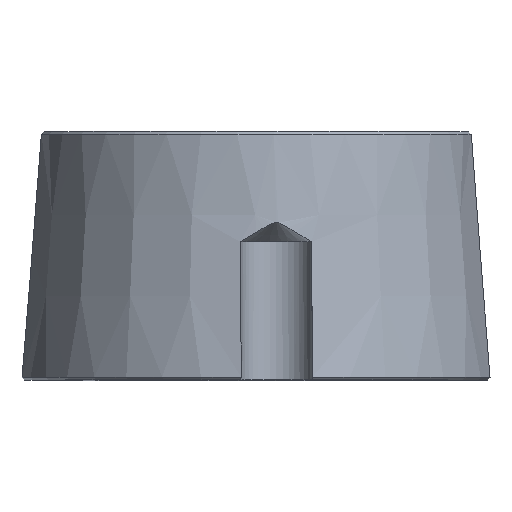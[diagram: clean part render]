
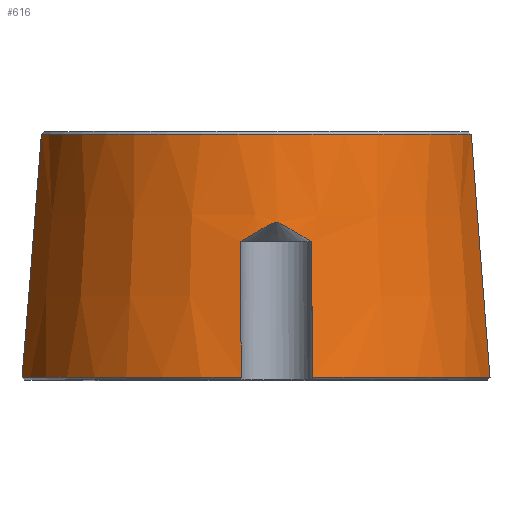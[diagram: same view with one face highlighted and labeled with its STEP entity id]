
A CAD part, top view. The second image highlights one B-rep face of the part: STEP entity #616.
In plain terms, the highlighted conical face has half-angle 4.587 degrees and reference radius 41.02 mm.
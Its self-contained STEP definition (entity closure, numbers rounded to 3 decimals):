
#29=B_SPLINE_CURVE_WITH_KNOTS('',3,(#1003,#1004,#1005,#1006,#1007,#1008,
#1009,#1010,#1011,#1012),.UNSPECIFIED.,.F.,.F.,(4,2,2,2,4),(1.002,
1.477,2.953,4.535,5.112),
 .UNSPECIFIED.);
#40=B_SPLINE_CURVE_WITH_KNOTS('',3,(#1132,#1133,#1134,#1135,#1136,#1137,
#1138,#1139),.UNSPECIFIED.,.F.,.F.,(4,2,2,4),(0.981,1.531,
3.824,5.1),.UNSPECIFIED.);
#42=B_SPLINE_CURVE_WITH_KNOTS('',3,(#1158,#1159,#1160,#1161,#1162,#1163),
 .UNSPECIFIED.,.F.,.F.,(4,2,4),(0.945,2.55,3.228),
 .UNSPECIFIED.);
#43=B_SPLINE_CURVE_WITH_KNOTS('',3,(#1166,#1167,#1168,#1169,#1170,#1171),
 .UNSPECIFIED.,.F.,.F.,(4,2,4),(1.006,1.683,3.288),
 .UNSPECIFIED.);
#44=B_SPLINE_CURVE_WITH_KNOTS('',3,(#1180,#1181,#1182,#1183,#1184,#1185,
#1186,#1187,#1188,#1189,#1190,#1191,#1192,#1193,#1194,#1195,#1196,#1197,
#1198,#1199,#1200,#1201),.UNSPECIFIED.,.F.,.F.,(4,2,2,2,2,2,2,2,2,2,4),
(1.849,2.138,2.365,2.478,2.535,
2.591,2.648,2.705,2.818,3.044,
3.334),.UNSPECIFIED.);
#134=FACE_OUTER_BOUND('',#168,.T.);
#168=EDGE_LOOP('',(#527,#528,#529,#530,#531,#532,#533,#534));
#201=CIRCLE('',#657,39.255);
#208=CIRCLE('',#674,42.785);
#210=CIRCLE('',#680,42.785);
#265=VERTEX_POINT('',#962);
#266=VERTEX_POINT('',#967);
#269=VERTEX_POINT('',#998);
#282=VERTEX_POINT('',#1120);
#283=VERTEX_POINT('',#1125);
#285=VERTEX_POINT('',#1150);
#286=VERTEX_POINT('',#1157);
#287=VERTEX_POINT('',#1164);
#335=EDGE_CURVE('',#266,#265,#201,.T.);
#340=EDGE_CURVE('',#266,#269,#29,.T.);
#366=EDGE_CURVE('',#282,#283,#208,.T.);
#368=EDGE_CURVE('',#282,#265,#40,.T.);
#374=EDGE_CURVE('',#285,#269,#210,.T.);
#375=EDGE_CURVE('',#286,#283,#42,.T.);
#377=EDGE_CURVE('',#285,#287,#43,.T.);
#380=EDGE_CURVE('',#286,#287,#44,.T.);
#527=ORIENTED_EDGE('',*,*,#335,.F.);
#528=ORIENTED_EDGE('',*,*,#340,.T.);
#529=ORIENTED_EDGE('',*,*,#374,.F.);
#530=ORIENTED_EDGE('',*,*,#377,.T.);
#531=ORIENTED_EDGE('',*,*,#380,.F.);
#532=ORIENTED_EDGE('',*,*,#375,.T.);
#533=ORIENTED_EDGE('',*,*,#366,.F.);
#534=ORIENTED_EDGE('',*,*,#368,.T.);
#590=CONICAL_SURFACE('',#686,41.02,4.587);
#616=ADVANCED_FACE('',(#134),#590,.T.);
#657=AXIS2_PLACEMENT_3D('',#974,#773,#774);
#674=AXIS2_PLACEMENT_3D('',#1126,#811,#812);
#680=AXIS2_PLACEMENT_3D('',#1155,#825,#826);
#686=AXIS2_PLACEMENT_3D('',#1179,#837,#838);
#773=DIRECTION('center_axis',(0.,1.,0.));
#774=DIRECTION('ref_axis',(0.,0.,1.));
#811=DIRECTION('center_axis',(0.,-1.,0.));
#812=DIRECTION('ref_axis',(0.,0.,1.));
#825=DIRECTION('center_axis',(0.,-1.,0.));
#826=DIRECTION('ref_axis',(0.,0.,1.));
#837=DIRECTION('center_axis',(0.,-1.,0.));
#838=DIRECTION('ref_axis',(0.,0.,-1.));
#962=CARTESIAN_POINT('',(38.903,34.575,-18.354));
#967=CARTESIAN_POINT('',(-38.957,34.575,-18.77));
#974=CARTESIAN_POINT('Origin',(0.,34.575,-23.6));
#998=CARTESIAN_POINT('',(-42.464,-9.428,-18.373));
#1003=CARTESIAN_POINT('Ctrl Pts',(-38.957,34.575,-18.77));
#1004=CARTESIAN_POINT('Ctrl Pts',(-39.088,32.856,-18.707));
#1005=CARTESIAN_POINT('Ctrl Pts',(-39.221,31.121,-18.649));
#1006=CARTESIAN_POINT('Ctrl Pts',(-39.771,23.991,-18.438));
#1007=CARTESIAN_POINT('Ctrl Pts',(-40.194,18.595,-18.337));
#1008=CARTESIAN_POINT('Ctrl Pts',(-41.002,8.434,-18.231));
#1009=CARTESIAN_POINT('Ctrl Pts',(-41.469,2.655,-18.222));
#1010=CARTESIAN_POINT('Ctrl Pts',(-42.117,-5.234,-18.303));
#1011=CARTESIAN_POINT('Ctrl Pts',(-42.291,-7.344,-18.333));
#1012=CARTESIAN_POINT('Ctrl Pts',(-42.464,-9.428,-18.373));
#1120=CARTESIAN_POINT('',(42.284,-9.428,-17.072));
#1125=CARTESIAN_POINT('',(10.133,-9.428,17.968));
#1126=CARTESIAN_POINT('Origin',(0.,-9.428,
-23.6));
#1132=CARTESIAN_POINT('Ctrl Pts',(42.284,-9.428,-17.072));
#1133=CARTESIAN_POINT('Ctrl Pts',(42.124,-7.432,-17.086));
#1134=CARTESIAN_POINT('Ctrl Pts',(41.968,-5.473,-17.105));
#1135=CARTESIAN_POINT('Ctrl Pts',(41.219,3.972,-17.221));
#1136=CARTESIAN_POINT('Ctrl Pts',(40.569,12.351,-17.41));
#1137=CARTESIAN_POINT('Ctrl Pts',(39.583,25.387,-17.895));
#1138=CARTESIAN_POINT('Ctrl Pts',(39.236,30.048,-18.105));
#1139=CARTESIAN_POINT('Ctrl Pts',(38.903,34.575,-18.354));
#1150=CARTESIAN_POINT('',(-2.761,-9.428,19.096));
#1155=CARTESIAN_POINT('Origin',(0.,-9.428,
-23.6));
#1157=CARTESIAN_POINT('',(9.965,15.073,15.984));
#1158=CARTESIAN_POINT('Ctrl Pts',(9.965,15.073,15.984));
#1159=CARTESIAN_POINT('Ctrl Pts',(10.066,9.692,16.404));
#1160=CARTESIAN_POINT('Ctrl Pts',(10.133,3.825,16.873));
#1161=CARTESIAN_POINT('Ctrl Pts',(10.151,-4.516,17.558));
#1162=CARTESIAN_POINT('Ctrl Pts',(10.147,-6.99,17.763));
#1163=CARTESIAN_POINT('Ctrl Pts',(10.133,-9.428,17.968));
#1164=CARTESIAN_POINT('',(-2.939,15.073,17.113));
#1166=CARTESIAN_POINT('Ctrl Pts',(-2.761,-9.428,19.096));
#1167=CARTESIAN_POINT('Ctrl Pts',(-2.81,-6.99,18.897));
#1168=CARTESIAN_POINT('Ctrl Pts',(-2.85,-4.516,18.695));
#1169=CARTESIAN_POINT('Ctrl Pts',(-2.951,3.825,18.017));
#1170=CARTESIAN_POINT('Ctrl Pts',(-2.966,9.692,17.544));
#1171=CARTESIAN_POINT('Ctrl Pts',(-2.939,15.073,17.113));
#1179=CARTESIAN_POINT('Origin',(0.,12.573,-23.6));
#1180=CARTESIAN_POINT('Ctrl Pts',(9.965,15.073,15.984));
#1181=CARTESIAN_POINT('Ctrl Pts',(9.128,15.586,16.153));
#1182=CARTESIAN_POINT('Ctrl Pts',(8.271,16.107,16.297));
#1183=CARTESIAN_POINT('Ctrl Pts',(6.76,17.014,16.504));
#1184=CARTESIAN_POINT('Ctrl Pts',(6.109,17.402,16.576));
#1185=CARTESIAN_POINT('Ctrl Pts',(5.156,17.941,16.662));
#1186=CARTESIAN_POINT('Ctrl Pts',(4.846,18.113,16.686));
#1187=CARTESIAN_POINT('Ctrl Pts',(4.375,18.34,16.721));
#1188=CARTESIAN_POINT('Ctrl Pts',(4.218,18.411,16.732));
#1189=CARTESIAN_POINT('Ctrl Pts',(3.891,18.522,16.756));
#1190=CARTESIAN_POINT('Ctrl Pts',(3.721,18.564,16.769));
#1191=CARTESIAN_POINT('Ctrl Pts',(3.345,18.564,16.802));
#1192=CARTESIAN_POINT('Ctrl Pts',(3.176,18.522,16.818));
#1193=CARTESIAN_POINT('Ctrl Pts',(2.85,18.411,16.852));
#1194=CARTESIAN_POINT('Ctrl Pts',(2.693,18.34,16.868));
#1195=CARTESIAN_POINT('Ctrl Pts',(2.223,18.113,16.916));
#1196=CARTESIAN_POINT('Ctrl Pts',(1.913,17.941,16.945));
#1197=CARTESIAN_POINT('Ctrl Pts',(0.96,17.402,17.026));
#1198=CARTESIAN_POINT('Ctrl Pts',(0.307,17.014,17.068));
#1199=CARTESIAN_POINT('Ctrl Pts',(-1.217,16.107,17.127));
#1200=CARTESIAN_POINT('Ctrl Pts',(-2.086,15.586,17.134));
#1201=CARTESIAN_POINT('Ctrl Pts',(-2.939,15.073,17.113));
